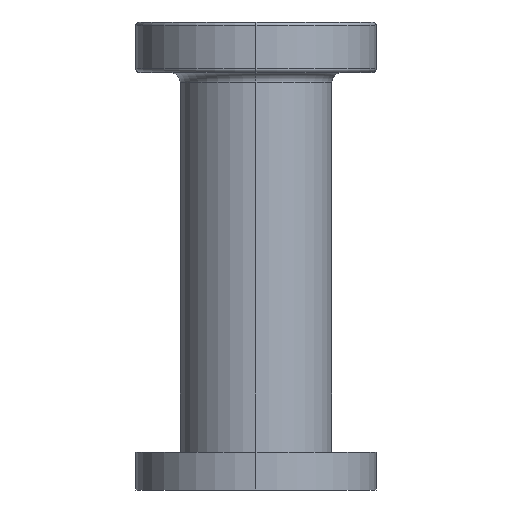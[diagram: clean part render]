
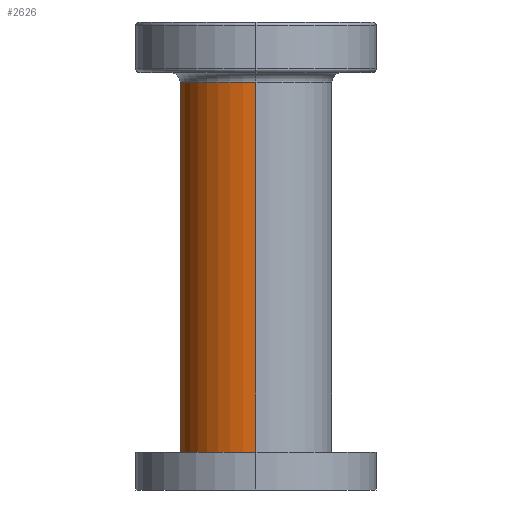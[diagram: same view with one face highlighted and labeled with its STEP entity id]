
A CAD part, left-side view. The second image highlights one B-rep face of the part: STEP entity #2626.
In plain terms, the highlighted cylindrical face has radius 6 mm (diameter 12 mm), a partial arc.
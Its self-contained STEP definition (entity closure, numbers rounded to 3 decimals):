
#183 = CARTESIAN_POINT ( 'NONE',  ( -85.13, 9.042, 30.611 ) ) ;
#194 = DIRECTION ( 'NONE',  ( -1., 0., 0. ) ) ;
#527 = VERTEX_POINT ( 'NONE', #1362 ) ;
#565 = DIRECTION ( 'NONE',  ( -1., 0., 0. ) ) ;
#604 = AXIS2_PLACEMENT_3D ( 'NONE', #2197, #1331, #194 ) ;
#689 = DIRECTION ( 'NONE',  ( 0., 0., -1. ) ) ;
#733 = VERTEX_POINT ( 'NONE', #1008 ) ;
#882 = DIRECTION ( 'NONE',  ( 0., 0., -1. ) ) ;
#954 = EDGE_CURVE ( 'NONE', #733, #527, #2840, .T. ) ;
#999 = CIRCLE ( 'NONE', #2218, 6. ) ;
#1008 = CARTESIAN_POINT ( 'NONE',  ( -91.13, 9.042, 30.611 ) ) ;
#1022 = VERTEX_POINT ( 'NONE', #2912 ) ;
#1070 = LINE ( 'NONE', #2235, #1361 ) ;
#1119 = VECTOR ( 'NONE', #689, 1000. ) ;
#1141 = CARTESIAN_POINT ( 'NONE',  ( -91.13, 9.042, -3.168 ) ) ;
#1331 = DIRECTION ( 'NONE',  ( 0., 0., -1. ) ) ;
#1361 = VECTOR ( 'NONE', #882, 1000. ) ;
#1362 = CARTESIAN_POINT ( 'NONE',  ( -91.13, 9.042, 1.411 ) ) ;
#1525 = DIRECTION ( 'NONE',  ( 0., 0., -1. ) ) ;
#1541 = CARTESIAN_POINT ( 'NONE',  ( -79.13, 9.042, 30.611 ) ) ;
#1642 = EDGE_LOOP ( 'NONE', ( #1894, #2494, #1800, #2286 ) ) ;
#1692 = DIRECTION ( 'NONE',  ( 0., 0., -1. ) ) ;
#1695 = AXIS2_PLACEMENT_3D ( 'NONE', #183, #1525, #2453 ) ;
#1703 = CIRCLE ( 'NONE', #1695, 6. ) ;
#1800 = ORIENTED_EDGE ( 'NONE', *, *, #2730, .F. ) ;
#1806 = EDGE_CURVE ( 'NONE', #733, #2640, #1703, .T. ) ;
#1894 = ORIENTED_EDGE ( 'NONE', *, *, #1806, .T. ) ;
#1911 = EDGE_CURVE ( 'NONE', #2640, #1022, #1070, .T. ) ;
#2162 = CYLINDRICAL_SURFACE ( 'NONE', #604, 6. ) ;
#2197 = CARTESIAN_POINT ( 'NONE',  ( -85.13, 9.042, -3.168 ) ) ;
#2218 = AXIS2_PLACEMENT_3D ( 'NONE', #2369, #1692, #565 ) ;
#2235 = CARTESIAN_POINT ( 'NONE',  ( -79.13, 9.042, -3.168 ) ) ;
#2286 = ORIENTED_EDGE ( 'NONE', *, *, #954, .F. ) ;
#2369 = CARTESIAN_POINT ( 'NONE',  ( -85.13, 9.042, 1.411 ) ) ;
#2453 = DIRECTION ( 'NONE',  ( -1., 0., 0. ) ) ;
#2494 = ORIENTED_EDGE ( 'NONE', *, *, #1911, .T. ) ;
#2626 = ADVANCED_FACE ( 'NONE', ( #2761 ), #2162, .T. ) ;
#2640 = VERTEX_POINT ( 'NONE', #1541 ) ;
#2730 = EDGE_CURVE ( 'NONE', #527, #1022, #999, .T. ) ;
#2761 = FACE_OUTER_BOUND ( 'NONE', #1642, .T. ) ;
#2840 = LINE ( 'NONE', #1141, #1119 ) ;
#2912 = CARTESIAN_POINT ( 'NONE',  ( -79.13, 9.042, 1.411 ) ) ;
